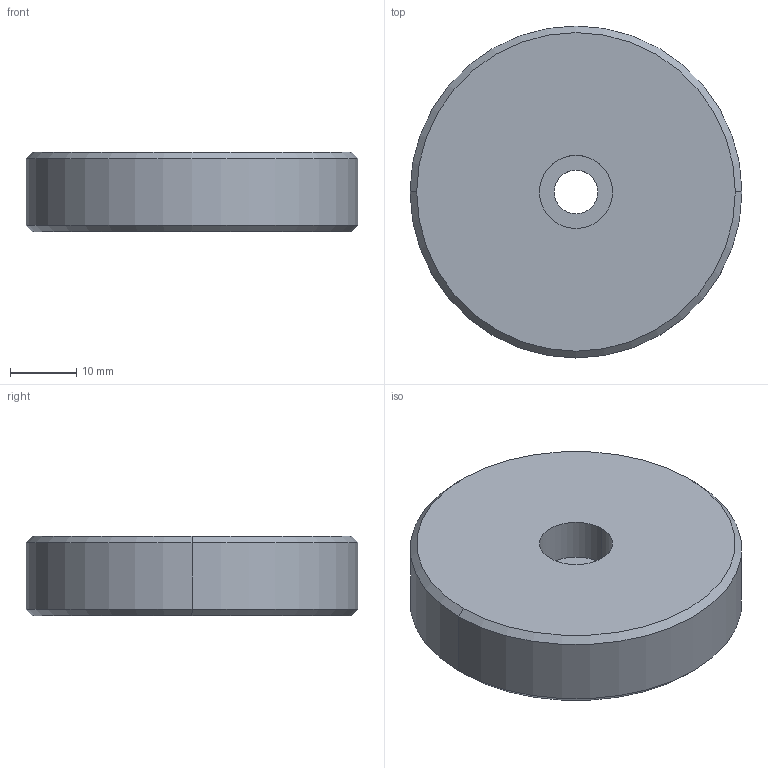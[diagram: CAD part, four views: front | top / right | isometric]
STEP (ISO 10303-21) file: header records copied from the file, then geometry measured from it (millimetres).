
FILE_DESCRIPTION (( 'STEP AP203' ), '1' );
FILE_NAME ('YWSD-2026-03-01-03=003 公转驱动齿轮挡片.STEP', '2026-07-24T07:32:29', ( 'Windows 用户' ), ( '' ), 'SwSTEP 2.0', 'SolidWorks 2024', '' );
FILE_SCHEMA (( 'CONFIG_CONTROL_DESIGN' ));
Length unit declared in the file: millimetre
Products named in the file (1): YWSD-2026-03-01-03=003 公转驱动齿轮挡片
Bounding box: 50 x 50 x 12 mm (x, y, z)
Volume: 22607.2 mm3; surface area: 5894.2 mm2
Topology: 1 solids, 1 shells, 13 faces, 26 edges, 16 vertices
Faces by surface type: cylinder 6, cone 4, plane 3
Entity records: 425 total; most frequent: DIRECTION 70, CARTESIAN_POINT 56, ORIENTED_EDGE 52, AXIS2_PLACEMENT_3D 30, EDGE_CURVE 26, VERTEX_POINT 16, EDGE_LOOP 16, CIRCLE 16
